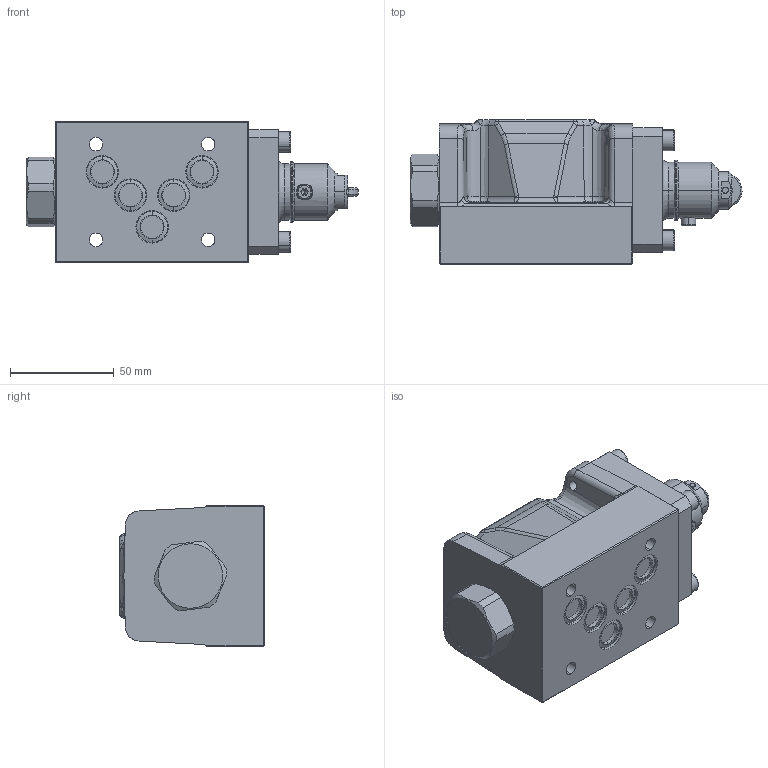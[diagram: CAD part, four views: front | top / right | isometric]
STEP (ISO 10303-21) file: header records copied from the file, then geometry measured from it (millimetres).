
FILE_DESCRIPTION (( 'STEP AP214' ), '1' );
FILE_NAME ('WDTFA10-4_2-Bside.STEP', '2019-06-26T10:42:17', ( '' ), ( '' ), 'SwSTEP 2.0', 'SolidWorks 2018', '' );
FILE_SCHEMA (( 'AUTOMOTIVE_DESIGN' ));
Length unit declared in the file: millimetre
Products named in the file (1): WDTFA10-4_2-Bside
Bounding box: 159.77 x 69.5 x 68 mm (x, y, z)
Volume: 433240.3 mm3; surface area: 57452.9 mm2
Topology: 7 solids, 8 shells, 708 faces, 1671 edges, 1002 vertices
Faces by surface type: plane 239, cylinder 221, bspline 118, cone 81, torus 49
Entity records: 32114 total; most frequent: CARTESIAN_POINT 8924, ORIENTED_EDGE 3298, DIRECTION 3050, EDGE_CURVE 1649, AXIS2_PLACEMENT_3D 1163, VERTEX_POINT 1002, EDGE_LOOP 783, VECTOR 724
